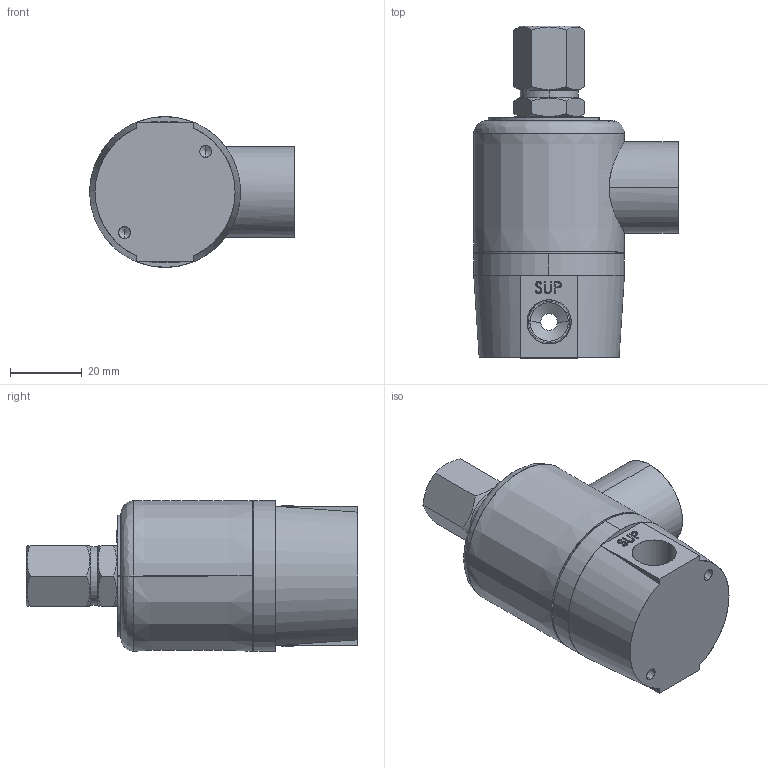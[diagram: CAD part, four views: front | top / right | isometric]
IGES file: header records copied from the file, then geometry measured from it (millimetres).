
Start section: SolidWorks IGES file using analytic representation for surfaces
Global section: file name: C:\Users\Toshiba\Desktop\SS2300-02-#.IGS; native system: SolidWorks 2014; preprocessor: SolidWorks 2014; author: Toshiba; date: 160126.085106; units: millimetre
Bounding box: 57 x 92.5 x 42 mm (x, y, z)
Surface area: 28857.4 mm2 (no closed solid volume)
Topology: 0 solids, 0 shells, 283 faces, 4171 edges, 4167 vertices
Faces by surface type: bspline 193, revolution 90
